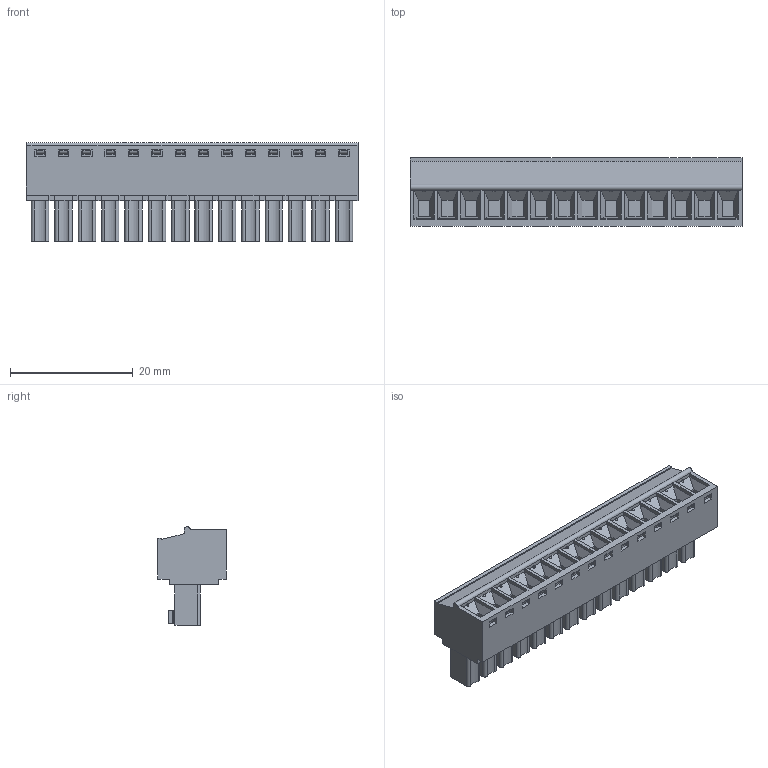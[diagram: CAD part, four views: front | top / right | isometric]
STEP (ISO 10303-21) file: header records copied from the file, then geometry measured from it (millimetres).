
FILE_DESCRIPTION(('FreeCAD Model'),'2;1');
FILE_NAME('Open CASCADE Shape Model','2023-05-24T15:45:51',('Author'),( ''),'Open CASCADE STEP processor 7.6','FreeCAD','Unknown');
FILE_SCHEMA(('AUTOMOTIVE_DESIGN { 1 0 10303 214 1 1 1 1 }'));
Products named in the file (1): BR7F2-14
Bounding box: 54.13 x 11.2 x 16.1 mm (x, y, z)
Volume: 5376.6 mm3; surface area: 5099.2 mm2
Topology: 1 solids, 1 shells, 1245 faces, 3017 edges, 1872 vertices
Faces by surface type: plane 740, cylinder 281, cone 140, torus 56, sphere 28
Entity records: 81109 total; most frequent: CARTESIAN_POINT 19897, DIRECTION 11737, LINE 7098, VECTOR 7098, ORIENTED_EDGE 5978, PCURVE 5978, DEFINITIONAL_REPRESENTATION 5978, EDGE_CURVE 2989
